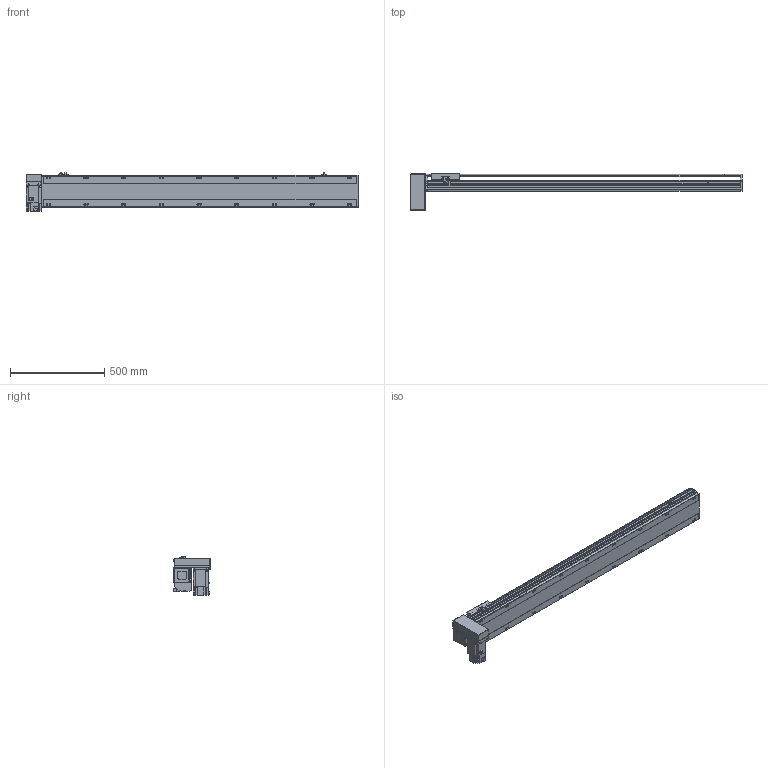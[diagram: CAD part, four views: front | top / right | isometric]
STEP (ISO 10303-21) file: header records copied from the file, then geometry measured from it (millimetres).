
FILE_DESCRIPTION(/* description */ ('STEP AP214'),/* implementation_level */ '2;1');
FILE_NAME(/* name */ 'PBS170-P40-S1400-RD-T75-C1-N(0)',/* time_stamp */ '2022-06-08T07:36:04+02:00',/* author */ ('License CC BY-ND 4.0'),/* organization */ ('CADENAS'),/* preprocessor_version */ 'ST-DEVELOPER v18.102',/* originating_system */ 'PARTsolutions',/* authorisation */ ' ');
FILE_SCHEMA (('AUTOMOTIVE_DESIGN {1 0 10303 214 3 1 1}'));
Length unit declared in the file: millimetre
Products named in the file (7): PBS170-P40-S1400-RD-T75-C1-N(0); PBS170_sensor; PBS170_plant; PBS170_sliser; T75-p1; PBS170T-RD_motors; PBS170-S1400()_body
Assembly tree (8 placements, depth 2):
  PBS170-P40-S1400-RD-T75-C1-N(0)
    PBS170_sensor  x3
    PBS170_plant
    PBS170_sliser
    T75-p1
    PBS170T-RD_motors
    PBS170-S1400()_body
Bounding box: 1763 x 201 x 205.3 mm (x, y, z)
Volume: 13842784.9 mm3; surface area: 1783161.1 mm2
Topology: 8 solids, 8 shells, 1098 faces, 2915 edges, 1900 vertices
Faces by surface type: plane 693, cylinder 347, cone 48, sphere 8, torus 2
Full cylindrical faces by diameter (mm): 3.242 x4, 4 x2, 4.4 x4, 4.5 x6, 4.917 x4, 6 x9, 6.647 x26, 7 x2, 7.5 x4, 8 x8, 8.5 x18, 10 x4, 10.5 x18, 11 x2, 30 x2, 40 x1, 70 x1
Entity records: 31576 total; most frequent: CARTESIAN_POINT 5825, DIRECTION 5370, ORIENTED_EDGE 5088, EDGE_CURVE 2544, AXIS2_PLACEMENT_3D 1867, VERTEX_POINT 1754, LINE 1636, VECTOR 1636
